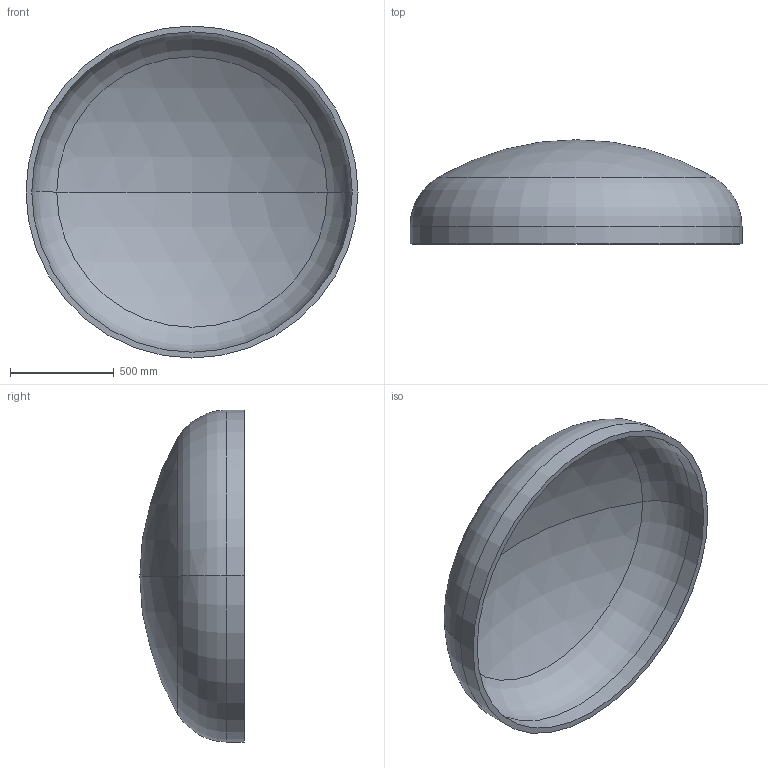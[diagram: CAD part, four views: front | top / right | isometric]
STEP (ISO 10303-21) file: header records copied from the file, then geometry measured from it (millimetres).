
FILE_DESCRIPTION (( 'STEP AP203' ), '1' );
FILE_NAME ('DIN 28013 Korbbogenform_-_Boden DIN 28013 - 1600 x 85 - I - s=28.step', '2016-07-01T11:11:08', ( '' ), ( '' ), 'SwSTEP 2.0', 'SolidWorks 2013', '' );
FILE_SCHEMA (( 'CONFIG_CONTROL_DESIGN' ));
Length unit declared in the file: millimetre
Products named in the file (1): DIN 28013 Korbbogenform_-_Boden DIN 28013 - 1600 x 85 - I - s=28
Bounding box: 1600 x 502.22 x 1600 mm (x, y, z)
Volume: 87860389.5 mm3; surface area: 6415662.4 mm2
Topology: 1 solids, 1 shells, 13 faces, 24 edges, 14 vertices
Faces by surface type: torus 4, cylinder 4, sphere 4, plane 1
Entity records: 407 total; most frequent: DIRECTION 72, CARTESIAN_POINT 52, ORIENTED_EDGE 48, AXIS2_PLACEMENT_3D 34, EDGE_CURVE 24, CIRCLE 20, VERTEX_POINT 14, EDGE_LOOP 14
